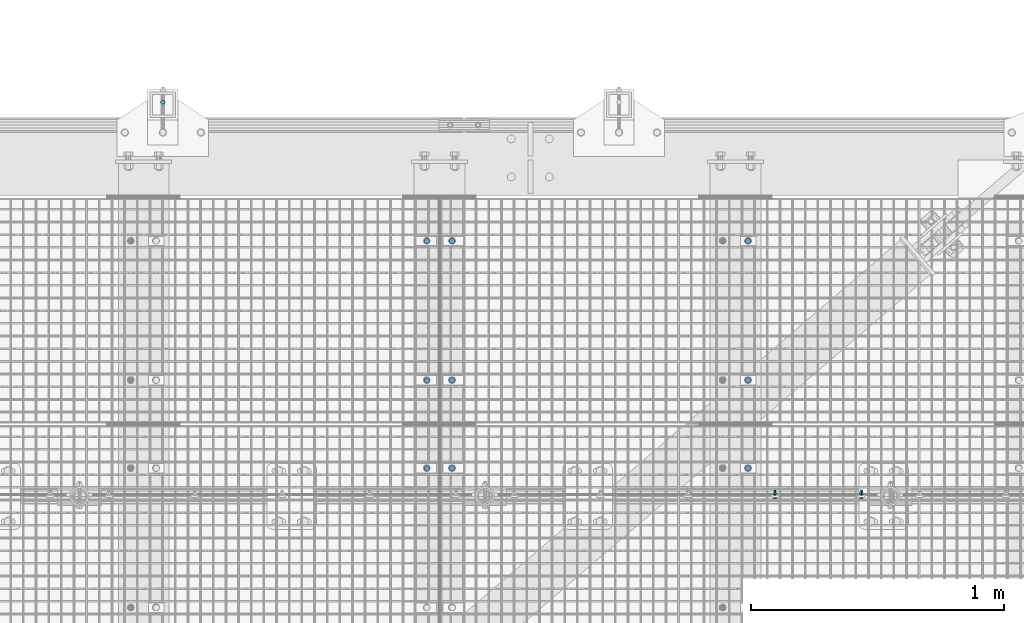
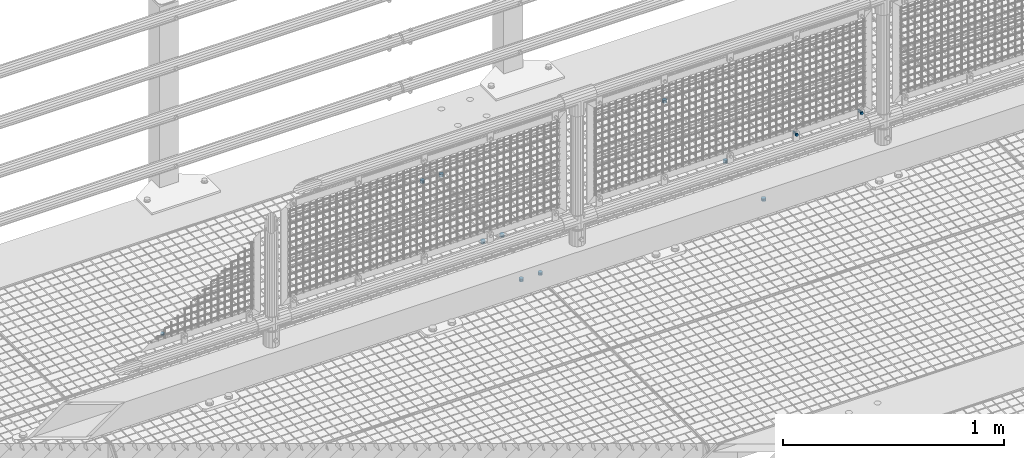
# One storey, part 84 of 1530: 12 mechanical fasteners.
"""IFC2X3 building model written with IfcOpenShell, lengths in millimetres."""

import ifcopenshell
import ifcopenshell.guid

model = None  # the IFC model being written
_history = None  # IfcOwnerHistory: only IFC2X3 demands one
_inside = {}  # id of a spatial element -> (the spatial element, [elements in it])
_under = {}  # id of a project, library or spatial element -> (it, [spatial elements below it])
_declared = {}  # id of a project -> (the project, [libraries it declares])
_typed = {}  # id of a type object -> (the type object, [elements of that type])
_made_of = {}  # id of a material, layer set ... -> (it, [elements and type objects made of it])


def new_model(schema):
    """Start an empty IFC model of exactly this schema.

    Asked for "IFC4X3", IfcOpenShell would pick the latest addendum, in which some entities
    have other attributes; the version numbers below select the first issue.
    IFC2X3 requires an IfcOwnerHistory on every rooted entity: one is made here for all.
    """
    global model, _history
    if schema == "IFC4X3":
        model = ifcopenshell.file(schema_version=(4, 3, 0, 0))
    else:
        model = ifcopenshell.file(schema=schema)
    _inside.clear()
    _under.clear()
    _declared.clear()
    _typed.clear()
    _made_of.clear()
    _history = None
    if model.schema == "IFC2X3":
        org = make("IfcOrganization", Name="unknown")
        user = make(
            "IfcPersonAndOrganization",
            ThePerson=make("IfcPerson", FamilyName="unknown"),
            TheOrganization=org,
        )
        app = make(
            "IfcApplication",
            ApplicationDeveloper=org,
            Version="unknown",
            ApplicationFullName="unknown",
            ApplicationIdentifier="unknown",
        )
        _history = make(
            "IfcOwnerHistory",
            OwningUser=user,
            OwningApplication=app,
            ChangeAction="ADDED",
            CreationDate=0,
        )
    return model


def make(cls, **values):
    """One entity of the class cls with the attributes given. An attribute that is None is left unset."""
    return model.create_entity(
        cls, **{name: value for name, value in values.items() if value is not None}
    )


def rooted(cls, **values):
    """An entity with a GlobalId (a new one), such as an element, a storey or a relation."""
    return make(cls, GlobalId=ifcopenshell.guid.new(), OwnerHistory=_history, **values)


def si_unit(unit_type, name, prefix=None):
    """IfcSIUnit, for example si_unit("LENGTHUNIT", "METRE", prefix="MILLI")."""
    return make("IfcSIUnit", UnitType=unit_type, Prefix=prefix, Name=name)


def assignment(units):
    """IfcUnitAssignment: the units of a project."""
    return None if units is None else make("IfcUnitAssignment", Units=units)


def point(xyz):
    """IfcCartesianPoint."""
    return None if xyz is None else make("IfcCartesianPoint", Coordinates=xyz)


def direction(xyz):
    """IfcDirection."""
    return None if xyz is None else make("IfcDirection", DirectionRatios=xyz)


def frame(location, z_axis=None, x_axis=None):
    """IfcAxis2Placement3D, a coordinate frame: its origin and axes. An axis left out is left unset."""
    return make(
        "IfcAxis2Placement3D",
        Location=point(location),
        Axis=direction(z_axis),
        RefDirection=direction(x_axis),
    )


def origin_with_axes():
    """The frame at (0, 0, 0) with the z axis (0, 0, 1) and the x axis (1, 0, 0) written out."""
    return frame((0.0, 0.0, 0.0), z_axis=(0.0, 0.0, 1.0), x_axis=(1.0, 0.0, 0.0))


def place(relative_to, where):
    """IfcLocalPlacement: puts the frame where relative to a parent placement (None: the world)."""
    return make(
        "IfcLocalPlacement", PlacementRelTo=relative_to, RelativePlacement=where
    )


def context(
    kind, dimensions, precision=None, world=None, true_north=None, identifier=None
):
    """IfcGeometricRepresentationContext, for example the 3D "Model" context."""
    return make(
        "IfcGeometricRepresentationContext",
        ContextIdentifier=identifier,
        ContextType=kind,
        CoordinateSpaceDimension=dimensions,
        Precision=precision,
        WorldCoordinateSystem=world,
        TrueNorth=true_north,
    )


def subcontext(parent, identifier, kind, view, scale=None):
    """IfcGeometricRepresentationSubContext, for example "Body" below "Model"."""
    return make(
        "IfcGeometricRepresentationSubContext",
        ContextIdentifier=identifier,
        ContextType=kind,
        ParentContext=parent,
        TargetScale=scale,
        TargetView=view,
    )


def project(units=None, contexts=None):
    """IfcProject with its units and contexts."""
    return rooted(
        "IfcProject",
        Name="project",
        RepresentationContexts=contexts,
        UnitsInContext=assignment(units),
    )


def spatial(cls, under=None, at=None, **own):
    """A site, building, storey or space (cls), placed at a placement, below another one or the project."""
    s = rooted(cls, ObjectPlacement=at, **own)
    if under is not None:
        _under.setdefault(under.id(), (under, []))[1].append(s)
    return s


def faces_of(points, faces, orient=None, outer=None):
    """IfcFace entities. A face is a list of loops; a loop is a list of indices into points, from 0.

    orient and outer hold one flag for each loop. By default every Orientation is true, the
    first loop of a face is its IfcFaceOuterBound and the others are IfcFaceBound.
    """
    made = []
    for i, loops in enumerate(faces):
        bounds = []
        for j, loop in enumerate(loops):
            is_outer = j == 0 if outer is None else outer[i][j]
            bounds.append(
                make(
                    "IfcFaceOuterBound" if is_outer else "IfcFaceBound",
                    Bound=make("IfcPolyLoop", Polygon=[points[k] for k in loop]),
                    Orientation=True if orient is None else orient[i][j],
                )
            )
        made.append(make("IfcFace", Bounds=bounds))
    return made


def faceted_brep(points, faces, orient=None, outer=None, voids=None):
    """IfcFacetedBrep: a solid bounded by flat faces; with voids (closed shells), ...WithVoids."""
    shared = [point(p) for p in points]
    hull = make("IfcClosedShell", CfsFaces=faces_of(shared, faces, orient, outer))
    if voids is None:
        return make("IfcFacetedBrep", Outer=hull)
    return make(
        "IfcFacetedBrepWithVoids",
        Outer=hull,
        Voids=[
            make(cls, CfsFaces=faces_of(shared, fs, o, b)) for cls, fs, o, b in voids
        ],
    )


def shape(context_of_items, identifier, shape_type, items):
    """IfcShapeRepresentation: the items that make up one representation, for example the "Body"."""
    return make(
        "IfcShapeRepresentation",
        ContextOfItems=context_of_items,
        RepresentationIdentifier=identifier,
        RepresentationType=shape_type,
        Items=items,
    )


def source(mapping_origin, context_of_items, identifier, shape_type, items):
    """IfcRepresentationMap: a shape defined once, which mapped items show again and again."""
    return make(
        "IfcRepresentationMap",
        MappingOrigin=mapping_origin,
        MappedRepresentation=shape(context_of_items, identifier, shape_type, items),
    )


def transform(
    local_origin,
    x_axis=None,
    y_axis=None,
    z_axis=None,
    scale=None,
    scale2=None,
    scale3=None,
    uniform=True,
):
    """IfcCartesianTransformationOperator3D, or its non-uniform kind. x_axis, y_axis, z_axis: its Axis1, 2, 3."""
    if uniform:
        return make(
            "IfcCartesianTransformationOperator3D",
            Axis1=direction(x_axis),
            Axis2=direction(y_axis),
            LocalOrigin=point(local_origin),
            Scale=scale,
            Axis3=direction(z_axis),
        )
    return make(
        "IfcCartesianTransformationOperator3DnonUniform",
        Axis1=direction(x_axis),
        Axis2=direction(y_axis),
        LocalOrigin=point(local_origin),
        Scale=scale,
        Axis3=direction(z_axis),
        Scale2=scale2,
        Scale3=scale3,
    )


def mapped(mapping_source, mapping_target):
    """IfcMappedItem: shows the shape of a source again, moved by a transform."""
    return make(
        "IfcMappedItem", MappingSource=mapping_source, MappingTarget=mapping_target
    )


def material(Name=None, Category=None):
    """IfcMaterial."""
    return make("IfcMaterial", Name=Name, Category=Category)


def made_of(thing, what):
    """Note that an element or type object is made of a material, layer set ...; save() writes the relation."""
    if what is not None:
        _made_of.setdefault(what.id(), (what, []))[1].append(thing)
    return thing


def type_object(cls, material=None, **own):
    """A type object (cls), such as IfcWallType, which elements share."""
    return made_of(rooted(cls, **own), material)


def element(
    cls,
    number,
    at=None,
    inside=None,
    cuts=None,
    type_object=None,
    material=None,
    context=None,
    identifier="Body",
    shape_type=None,
    held_by="IfcProductDefinitionShape",
    body=None,
    shapes=None,
    **own,
):
    """One element of the class cls, such as IfcWall. Its Tag is "e" and its number.

    at: its placement. inside: the storey or other place that contains it. cuts: it is an
    opening in that element (IfcRelVoidsElement). A single representation is given by context,
    identifier, shape_type and body (its items); several are given by shapes. held_by: the class
    of the entity that holds the representations. save() writes the other relations.
    """
    e = rooted(cls, Tag="e%d" % number, ObjectPlacement=at, **own)
    if body is not None:
        shapes = [shape(context, identifier, shape_type, body)]
    if shapes is not None:
        e.Representation = make(held_by, Representations=shapes)
    if inside is not None:
        _inside.setdefault(inside.id(), (inside, []))[1].append(e)
    if cuts is not None:
        rooted(
            "IfcRelVoidsElement", RelatingBuildingElement=cuts, RelatedOpeningElement=e
        )
    if type_object is not None:
        _typed.setdefault(type_object.id(), (type_object, []))[1].append(e)
    return made_of(e, material)


def aggregate(whole, parts):
    """IfcRelAggregates: a whole, such as a stair, and the parts it consists of."""
    return rooted("IfcRelAggregates", RelatingObject=whole, RelatedObjects=parts)


def save(model, path):
    """Write the relations noted so far, then the file.

    IfcRelAggregates (storeys below a building ...), IfcRelContainedInSpatialStructure (elements
    in a storey), IfcRelDefinesByType, IfcRelAssociatesMaterial and IfcRelDeclares: one each for
    every whole, place, type object, material and project.
    """
    for whole, parts in _under.values():
        aggregate(whole, parts)
    for where, things in _inside.values():
        rooted(
            "IfcRelContainedInSpatialStructure",
            RelatedElements=things,
            RelatingStructure=where,
        )
    for kind, things in _typed.values():
        rooted("IfcRelDefinesByType", RelatedObjects=things, RelatingType=kind)
    for what, things in _made_of.values():
        rooted("IfcRelAssociatesMaterial", RelatedObjects=things, RelatingMaterial=what)
    for by, libraries in _declared.values():
        rooted("IfcRelDeclares", RelatingContext=by, RelatedDefinitions=libraries)
    model.write(path)


model = new_model("IFC2X3")

# Units and contexts
model_context = context("Model", 3, precision=1e-05, world=origin_with_axes())
body_context = subcontext(model_context, "Body", "Model", "MODEL_VIEW")
ifc_project = project(units=[si_unit("LENGTHUNIT", "METRE", prefix="MILLI"), si_unit("AREAUNIT", "SQUARE_METRE"), si_unit("VOLUMEUNIT", "CUBIC_METRE"), si_unit("MASSUNIT", "GRAM", prefix="KILO"), si_unit("TIMEUNIT", "SECOND"), si_unit("PLANEANGLEUNIT", "RADIAN"), si_unit("SOLIDANGLEUNIT", "STERADIAN"), si_unit("THERMODYNAMICTEMPERATUREUNIT", "DEGREE_CELSIUS"), si_unit("LUMINOUSINTENSITYUNIT", "LUMEN")], contexts=[model_context])

# Site, building, storey
site_placement = place(None, origin_with_axes())
site = spatial("IfcSite", under=ifc_project, at=site_placement, Name="Brattvåg", CompositionType="ELEMENT")
building_placement = place(site_placement, origin_with_axes())
building = spatial("IfcBuilding", under=site, at=building_placement, Name="Undefined", CompositionType="ELEMENT")
storey_placement = place(building_placement, origin_with_axes())
storey = spatial("IfcBuildingStorey", under=building, at=storey_placement, Name="Undefined", CompositionType="ELEMENT", Elevation=0.0)

# Mechanical fasteners
ifc_material = material(Name="8")
mechanical_fastener_type = type_object("IfcMechanicalFastenerType", Name="Bolt assembly")
shared_shape_1 = source(origin_with_axes(), body_context, "Body", "Brep", [
    faceted_brep([(11.0, -4.99999999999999, 0.0), (9.52627944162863, -4.99999999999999, 5.50000000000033), (5.49999999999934, -4.99999999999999, 9.5262794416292), (-1.13996957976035e-12, -4.99999999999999, 11.0), (-5.50000000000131, -4.99999999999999, 9.52627944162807), (-9.52627944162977, -4.99999999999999, 5.49999999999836), (-11.0, -4.99999999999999, -2.27993915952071e-12), (-9.5262794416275, -4.99999999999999, -5.5000000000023), (-5.49999999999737, -4.99999999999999, -9.52627944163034), (3.40769628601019e-12, -4.99999999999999, -11.0), (5.50000000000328, -4.99999999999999, -9.52627944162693), (9.52627944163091, -4.99999999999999, -5.49999999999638), (9.52627944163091, 10.1, -5.49999999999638), (5.50000000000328, 10.1, -9.52627944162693), (3.40769628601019e-12, 10.1, -11.0), (-5.49999999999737, 10.1, -9.52627944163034), (-9.5262794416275, 10.1, -5.5000000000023), (-11.0, 10.1, -2.27993915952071e-12), (-9.52627944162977, 10.1, 5.49999999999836), (-5.50000000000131, 10.1, 9.52627944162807), (-1.13996957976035e-12, 10.1, 11.0), (5.49999999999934, 10.1, 9.5262794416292), (9.52627944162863, 10.1, 5.50000000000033), (11.0, 10.1, 0.0)], [[[0, 1, 2, 3, 4, 5, 6, 7, 8, 9, 10, 11]], [[12, 13, 14, 15, 16, 17, 18, 19, 20, 21, 22, 23]], [[0, 23, 22, 1]], [[1, 22, 21, 2]], [[2, 21, 20, 3]], [[3, 20, 19, 4]], [[4, 19, 18, 5]], [[5, 18, 17, 6]], [[6, 17, 16, 7]], [[7, 16, 15, 8]], [[8, 15, 14, 9]], [[9, 14, 13, 10]], [[10, 13, 12, 11]], [[11, 12, 23, 0]]]),
])
for number, where, z_axis, x_axis, name in (
    (1, (5292.00477935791, 8121.98931152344, -35.0), (0.0, 1.0, 0.0), (1.0, 0.0, 0.0), "Bolt assembly"),
    (2, (5292.00477935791, 8671.99411010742, -35.0), (0.0, 1.0, 0.0), (1.0, 0.0, 0.0), "Bolt assembly"),
    (3, (6460.01456069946, 8671.99565124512, -35.0), (0.0, -1.0, 0.0), (-1.0, 1.99999855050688e-09, 0.0), "Bolt assembly"),
    (4, (6460.01192543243, 8121.99, -35.0), (0.0, -1.0, 0.0), (-1.0, 1.99999855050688e-09, 0.0), "Bolt assembly"),
    (5, (5292.00477935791, 7774.99411010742, -35.0), (0.0, 1.0, 0.0), (1.0, 0.0, 0.0), "Bolt assembly"),
    (6, (6460.01456069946, 7774.99565124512, -35.0), (0.0, -1.0, 0.0), (-1.0, 1.99999855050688e-09, 0.0), "Bolt assembly"),
    (7, (5192.01487731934, 8671.99411010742, -35.0), (0.0, -1.0, 0.0), (-1.0, 1.99999855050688e-09, 0.0), "Bolt assembly"),
    (8, (5192.01487731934, 8121.9904864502, -35.0), (0.0, -1.0, 0.0), (-1.0, 1.99999855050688e-09, 0.0), "Bolt assembly"),
    (9, (5192.01487731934, 7774.99411010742, -35.0), (0.0, -1.0, 0.0), (-1.0, 1.99999855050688e-09, 0.0), "Bolt assembly"),
):
    element("IfcMechanicalFastener", number, at=place(storey_placement, frame(where, z_axis=z_axis, x_axis=x_axis)), inside=storey, type_object=mechanical_fastener_type, material=ifc_material, Name=name, NominalDiameter=20.0, NominalLength=15.0, context=body_context, shape_type="MappedRepresentation", body=[
        mapped(shared_shape_1, transform((0.0, 0.0, 0.0))),
    ])
shared_shape_2 = source(origin_with_axes(), body_context, "Body", "Brep", [
    faceted_brep([(9.0, -0.000108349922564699, 0.0), (7.79422863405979, -0.000108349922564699, 4.50000000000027), (4.49999999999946, -0.000108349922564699, 7.79422863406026), (-9.3270238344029e-13, -0.000108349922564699, 9.0), (-4.50000000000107, -0.000108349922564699, 7.79422863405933), (-7.79422863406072, -0.000108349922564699, 4.49999999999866), (-9.0, -0.000108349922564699, -1.86540476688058e-12), (-7.79422863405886, -0.000108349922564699, -4.50000000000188), (-4.49999999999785, -0.000108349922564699, -7.79422863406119), (2.78811514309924e-12, -0.000108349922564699, -9.0), (4.50000000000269, -0.000108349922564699, -7.7942286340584), (7.79422863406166, -0.000108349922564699, -4.49999999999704), (7.79422863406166, 10.0998916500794, -4.49999999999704), (4.50000000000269, 10.0998916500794, -7.7942286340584), (2.78811514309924e-12, 10.0998916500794, -9.0), (-4.49999999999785, 10.0998916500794, -7.79422863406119), (-7.79422863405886, 10.0998916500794, -4.50000000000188), (-9.0, 10.0998916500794, -1.86540476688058e-12), (-7.79422863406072, 10.0998916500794, 4.49999999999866), (-4.50000000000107, 10.0998916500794, 7.79422863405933), (-9.3270238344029e-13, 10.0998916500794, 9.0), (4.49999999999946, 10.0998916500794, 7.79422863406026), (7.79422863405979, 10.0998916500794, 4.50000000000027), (9.0, 10.0998916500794, 0.0)], [[[0, 1, 2, 3, 4, 5, 6, 7, 8, 9, 10, 11]], [[12, 13, 14, 15, 16, 17, 18, 19, 20, 21, 22, 23]], [[0, 23, 22, 1]], [[1, 22, 21, 2]], [[2, 21, 20, 3]], [[3, 20, 19, 4]], [[4, 19, 18, 5]], [[5, 18, 17, 6]], [[6, 17, 16, 7]], [[7, 16, 15, 8]], [[8, 15, 14, 9]], [[9, 14, 13, 10]], [[10, 13, 12, 11]], [[11, 12, 23, 0]]]),
])
mechanical_fastener_1_placement = place(storey_placement, frame((4150.00016021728, 9219.99992874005, -855.000061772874), z_axis=(-1.0, 1.99999855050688e-09, 0.0), x_axis=(0.0, -0.99999999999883, 1.53000000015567e-06)))
element("IfcMechanicalFastener", 10, at=mechanical_fastener_1_placement, inside=storey, type_object=mechanical_fastener_type, material=ifc_material, Name="Bolt assembly", NominalDiameter=16.0, NominalLength=10.0001087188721, context=body_context, shape_type="MappedRepresentation", body=[
    mapped(shared_shape_2, transform((0.0, 0.0, 0.0))),
])
shared_shape_3 = source(origin_with_axes(), body_context, "Body", "Brep", [
    faceted_brep([(7.50555349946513, -6.899000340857, 0.0), (3.75277674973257, -6.899000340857, 6.5), (-3.75277674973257, -6.899000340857, 6.5), (-7.50555349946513, -6.899000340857, 9.19165206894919e-16), (-3.75277674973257, -6.899000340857, -6.5), (3.75277674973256, -6.899000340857, -6.5), (3.75277674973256, -1.59900015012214, -6.5), (-3.75277674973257, -1.59900015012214, -6.5), (-7.50555349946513, -1.59900015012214, 9.19165206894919e-16), (-3.75277674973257, -1.59900015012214, 6.5), (3.75277674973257, -1.59900015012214, 6.5), (7.50555349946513, -1.59900015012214, 0.0), (4.0, -1.59900015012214, 0.0), (3.46410161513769, -1.59900015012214, 2.00000000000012), (1.99999999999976, -1.59900015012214, 3.46410161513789), (-4.14534392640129e-13, -1.59900015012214, 4.0), (-2.00000000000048, -1.59900015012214, 3.46410161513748), (-3.4641016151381, -1.59900015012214, 1.9999999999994), (-4.0, -1.59900015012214, -8.29068785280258e-13), (-3.46410161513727, -1.59900015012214, -2.00000000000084), (-1.99999999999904, -1.59900015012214, -3.46410161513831), (1.23916228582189e-12, -1.59900015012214, -4.0), (2.00000000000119, -1.59900015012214, -3.46410161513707), (3.46410161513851, -1.59900015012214, -1.99999999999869), (3.46410161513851, 28.4009998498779, -1.99999999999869), (2.00000000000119, 28.4009998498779, -3.46410161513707), (1.23916228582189e-12, 28.4009998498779, -4.0), (-1.99999999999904, 28.4009998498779, -3.46410161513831), (-3.46410161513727, 28.4009998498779, -2.00000000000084), (-4.0, 28.4009998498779, -8.29068785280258e-13), (-3.4641016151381, 28.4009998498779, 1.9999999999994), (-2.00000000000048, 28.4009998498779, 3.46410161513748), (-4.14534392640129e-13, 28.4009998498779, 4.0), (1.99999999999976, 28.4009998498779, 3.46410161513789), (3.46410161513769, 28.4009998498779, 2.00000000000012), (4.0, 28.4009998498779, 0.0), (8.5, -1.59900015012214, 0.0), (7.36121593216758, -1.59900015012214, 4.25000000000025), (4.24999999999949, -1.59900015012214, 7.36121593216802), (-8.80885584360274e-13, -1.59900015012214, 8.5), (-4.25000000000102, -1.59900015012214, 7.36121593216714), (-7.36121593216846, -1.59900015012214, 4.24999999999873), (-8.5, -1.59900015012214, -1.76177116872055e-12), (-7.3612159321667, -1.59900015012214, -4.25000000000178), (-4.24999999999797, -1.59900015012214, -7.3612159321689), (2.63321985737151e-12, -1.59900015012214, -8.5), (4.25000000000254, -1.59900015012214, -7.36121593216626), (7.36121593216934, -1.59900015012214, -4.24999999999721), (7.36121593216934, 0.000999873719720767, -4.24999999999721), (4.25000000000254, 0.000999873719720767, -7.36121593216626), (2.63321985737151e-12, 0.000999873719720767, -8.5), (-4.24999999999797, 0.000999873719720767, -7.3612159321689), (-7.3612159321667, 0.000999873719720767, -4.25000000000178), (-8.5, 0.000999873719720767, -1.76177116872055e-12), (-7.36121593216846, 0.000999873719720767, 4.24999999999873), (-4.25000000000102, 0.000999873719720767, 7.36121593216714), (-8.80885584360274e-13, 0.000999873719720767, 8.5), (4.24999999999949, 0.000999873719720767, 7.36121593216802), (7.36121593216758, 0.000999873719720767, 4.25000000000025), (8.5, 0.000999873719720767, 0.0), (8.5, 11.5030995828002, 0.0), (7.36121593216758, 11.5030995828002, 4.25000000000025), (4.24999999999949, 11.5030995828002, 7.36121593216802), (-8.80885584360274e-13, 11.5030995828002, 8.5), (-4.25000000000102, 11.5030995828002, 7.36121593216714), (-7.36121593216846, 11.5030995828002, 4.24999999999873), (-8.5, 11.5030995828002, -1.76177116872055e-12), (-7.3612159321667, 11.5030995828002, -4.25000000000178), (-4.24999999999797, 11.5030995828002, -7.3612159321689), (2.63321985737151e-12, 11.5030995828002, -8.5), (4.25000000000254, 11.5030995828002, -7.36121593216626), (7.36121593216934, 11.5030995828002, -4.24999999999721), (7.36121593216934, 13.1030996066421, -4.24999999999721), (4.25000000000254, 13.1030996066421, -7.36121593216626), (2.63321985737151e-12, 13.1030996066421, -8.5), (-4.24999999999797, 13.1030996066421, -7.3612159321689), (-7.3612159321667, 13.1030996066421, -4.25000000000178), (-8.5, 13.1030996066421, -1.76177116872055e-12), (-7.36121593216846, 13.1030996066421, 4.24999999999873), (-4.25000000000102, 13.1030996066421, 7.36121593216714), (-8.80885584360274e-13, 13.1030996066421, 8.5), (4.24999999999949, 13.1030996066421, 7.36121593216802), (7.36121593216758, 13.1030996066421, 4.25000000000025), (8.5, 13.1030996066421, 0.0), (7.50555349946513, 13.1030996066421, 0.0), (3.75277674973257, 13.1030996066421, 6.5), (-3.75277674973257, 13.1030996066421, 6.5), (-7.50555349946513, 13.1030996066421, 9.19165206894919e-16), (-3.75277674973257, 13.1030996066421, -6.5), (3.75277674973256, 13.1030996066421, -6.5), (3.75277674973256, 19.9030997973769, -6.5), (-3.75277674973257, 19.9030997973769, -6.5), (-7.50555349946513, 19.9030997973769, 9.19165206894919e-16), (-3.75277674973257, 19.9030997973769, 6.5), (3.75277674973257, 19.9030997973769, 6.5), (7.50555349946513, 19.9030997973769, 0.0)], [[[0, 1, 2, 3, 4, 5]], [[6, 7, 8, 9, 10, 11]], [[0, 11, 10, 1]], [[1, 10, 9, 2]], [[2, 9, 8, 3]], [[3, 8, 7, 4]], [[4, 7, 6, 5]], [[5, 6, 11, 0]], [[12, 13, 14, 15, 16, 17, 18, 19, 20, 21, 22, 23]], [[24, 25, 26, 27, 28, 29, 30, 31, 32, 33, 34, 35]], [[12, 35, 34, 13]], [[13, 34, 33, 14]], [[14, 33, 32, 15]], [[15, 32, 31, 16]], [[16, 31, 30, 17]], [[17, 30, 29, 18]], [[18, 29, 28, 19]], [[19, 28, 27, 20]], [[20, 27, 26, 21]], [[21, 26, 25, 22]], [[22, 25, 24, 23]], [[23, 24, 35, 12]], [[36, 37, 38, 39, 40, 41, 42, 43, 44, 45, 46, 47]], [[48, 49, 50, 51, 52, 53, 54, 55, 56, 57, 58, 59]], [[36, 59, 58, 37]], [[37, 58, 57, 38]], [[38, 57, 56, 39]], [[39, 56, 55, 40]], [[40, 55, 54, 41]], [[41, 54, 53, 42]], [[42, 53, 52, 43]], [[43, 52, 51, 44]], [[44, 51, 50, 45]], [[45, 50, 49, 46]], [[46, 49, 48, 47]], [[47, 48, 59, 36]], [[60, 61, 62, 63, 64, 65, 66, 67, 68, 69, 70, 71]], [[72, 73, 74, 75, 76, 77, 78, 79, 80, 81, 82, 83]], [[60, 83, 82, 61]], [[61, 82, 81, 62]], [[62, 81, 80, 63]], [[63, 80, 79, 64]], [[64, 79, 78, 65]], [[65, 78, 77, 66]], [[66, 77, 76, 67]], [[67, 76, 75, 68]], [[68, 75, 74, 69]], [[69, 74, 73, 70]], [[70, 73, 72, 71]], [[71, 72, 83, 60]], [[84, 85, 86, 87, 88, 89]], [[90, 91, 92, 93, 94, 95]], [[84, 95, 94, 85]], [[85, 94, 93, 86]], [[86, 93, 92, 87]], [[87, 92, 91, 88]], [[88, 91, 90, 89]], [[89, 90, 95, 84]]]),
    faceted_brep([(5.0, 0.100999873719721, 0.0), (4.33012701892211, 0.100999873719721, 2.50000000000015), (2.4999999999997, 0.100999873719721, 4.33012701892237), (-5.18167990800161e-13, 0.100999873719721, 5.0), (-2.5000000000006, 0.100999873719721, 4.33012701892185), (-4.33012701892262, 0.100999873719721, 2.49999999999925), (-5.0, 0.100999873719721, -1.03633598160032e-12), (-4.33012701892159, 0.100999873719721, -2.50000000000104), (-2.49999999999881, 0.100999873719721, -4.33012701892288), (1.54895285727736e-12, 0.100999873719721, -5.0), (2.50000000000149, 0.100999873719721, -4.33012701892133), (4.33012701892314, 0.100999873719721, -2.49999999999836), (4.33012701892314, 8.10099988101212, -2.49999999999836), (2.50000000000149, 8.10099988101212, -4.33012701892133), (1.54895285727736e-12, 8.10099988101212, -5.0), (-2.49999999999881, 8.10099988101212, -4.33012701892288), (-4.33012701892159, 8.10099988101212, -2.50000000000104), (-5.0, 8.10099988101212, -1.03633598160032e-12), (-4.33012701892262, 8.10099988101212, 2.49999999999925), (-2.5000000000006, 8.10099988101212, 4.33012701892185), (-5.18167990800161e-13, 8.10099988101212, 5.0), (2.4999999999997, 8.10099988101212, 4.33012701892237), (4.33012701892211, 8.10099988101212, 2.50000000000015), (5.0, 8.10099988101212, 0.0), (5.0, 8.40309958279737, 0.0), (4.33012701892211, 8.40309958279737, 2.50000000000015), (2.4999999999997, 8.40309958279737, 4.33012701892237), (-5.18167990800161e-13, 8.40309958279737, 5.0), (-2.5000000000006, 8.40309958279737, 4.33012701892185), (-4.33012701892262, 8.40309958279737, 2.49999999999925), (-5.0, 8.40309958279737, -1.03633598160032e-12), (-4.33012701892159, 8.40309958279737, -2.50000000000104), (-2.49999999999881, 8.40309958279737, -4.33012701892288), (1.54895285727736e-12, 8.40309958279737, -5.0), (2.50000000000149, 8.40309958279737, -4.33012701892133), (4.33012701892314, 8.40309958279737, -2.49999999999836), (4.33012701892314, 11.5030995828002, -2.49999999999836), (2.50000000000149, 11.5030995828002, -4.33012701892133), (1.54895285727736e-12, 11.5030995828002, -5.0), (-2.49999999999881, 11.5030995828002, -4.33012701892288), (-4.33012701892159, 11.5030995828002, -2.50000000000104), (-5.0, 11.5030995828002, -1.03633598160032e-12), (-4.33012701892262, 11.5030995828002, 2.49999999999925), (-2.5000000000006, 11.5030995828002, 4.33012701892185), (-5.18167990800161e-13, 11.5030995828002, 5.0), (2.4999999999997, 11.5030995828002, 4.33012701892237), (4.33012701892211, 11.5030995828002, 2.50000000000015), (5.0, 11.5030995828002, 0.0)], [[[0, 1, 2, 3, 4, 5, 6, 7, 8, 9, 10, 11]], [[12, 13, 14, 15, 16, 17, 18, 19, 20, 21, 22, 23]], [[0, 23, 22, 1]], [[1, 22, 21, 2]], [[2, 21, 20, 3]], [[3, 20, 19, 4]], [[4, 19, 18, 5]], [[5, 18, 17, 6]], [[6, 17, 16, 7]], [[7, 16, 15, 8]], [[8, 15, 14, 9]], [[9, 14, 13, 10]], [[10, 13, 12, 11]], [[11, 12, 23, 0]], [[24, 25, 26, 27, 28, 29, 30, 31, 32, 33, 34, 35]], [[36, 37, 38, 39, 40, 41, 42, 43, 44, 45, 46, 47]], [[24, 47, 46, 25]], [[25, 46, 45, 26]], [[26, 45, 44, 27]], [[27, 44, 43, 28]], [[28, 43, 42, 29]], [[29, 42, 41, 30]], [[30, 41, 40, 31]], [[31, 40, 39, 32]], [[32, 39, 38, 33]], [[33, 38, 37, 34]], [[34, 37, 36, 35]], [[35, 36, 47, 24]]]),
])
mechanical_fastener_2_placement = place(storey_placement, frame((6565.8512954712, 7660.49843978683, 352.299672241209), z_axis=(-1.0, 1.99999855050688e-09, 0.0), x_axis=(0.0, 0.0, 1.0)))
element("IfcMechanicalFastener", 11, at=mechanical_fastener_2_placement, inside=storey, type_object=mechanical_fastener_type, material=ifc_material, Name="Bolt assembly", NominalDiameter=8.0, NominalLength=30.0, context=body_context, shape_type="MappedRepresentation", body=[
    mapped(shared_shape_3, transform((0.0, 0.0, 0.0))),
])
shared_shape_4 = source(origin_with_axes(), body_context, "Body", "Brep", [
    faceted_brep([(7.50555349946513, -6.899000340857, 0.0), (3.75277674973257, -6.899000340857, 6.5), (-3.75277674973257, -6.899000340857, 6.5), (-7.50555349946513, -6.899000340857, 9.19165206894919e-16), (-3.75277674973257, -6.899000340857, -6.5), (3.75277674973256, -6.899000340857, -6.5), (3.75277674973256, -1.59900015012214, -6.5), (-3.75277674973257, -1.59900015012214, -6.5), (-7.50555349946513, -1.59900015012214, 9.19165206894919e-16), (-3.75277674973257, -1.59900015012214, 6.5), (3.75277674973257, -1.59900015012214, 6.5), (7.50555349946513, -1.59900015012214, 0.0), (4.0, -1.59900015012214, 0.0), (3.46410161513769, -1.59900015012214, 2.00000000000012), (1.99999999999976, -1.59900015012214, 3.46410161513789), (-4.14534392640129e-13, -1.59900015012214, 4.0), (-2.00000000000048, -1.59900015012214, 3.46410161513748), (-3.4641016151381, -1.59900015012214, 1.9999999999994), (-4.0, -1.59900015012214, -8.29068785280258e-13), (-3.46410161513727, -1.59900015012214, -2.00000000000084), (-1.99999999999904, -1.59900015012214, -3.46410161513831), (1.23916228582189e-12, -1.59900015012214, -4.0), (2.00000000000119, -1.59900015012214, -3.46410161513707), (3.46410161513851, -1.59900015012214, -1.99999999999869), (3.46410161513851, 28.4009998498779, -1.99999999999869), (2.00000000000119, 28.4009998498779, -3.46410161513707), (1.23916228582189e-12, 28.4009998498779, -4.0), (-1.99999999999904, 28.4009998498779, -3.46410161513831), (-3.46410161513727, 28.4009998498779, -2.00000000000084), (-4.0, 28.4009998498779, -8.29068785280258e-13), (-3.4641016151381, 28.4009998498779, 1.9999999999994), (-2.00000000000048, 28.4009998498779, 3.46410161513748), (-4.14534392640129e-13, 28.4009998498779, 4.0), (1.99999999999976, 28.4009998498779, 3.46410161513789), (3.46410161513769, 28.4009998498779, 2.00000000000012), (4.0, 28.4009998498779, 0.0), (8.5, -1.59900015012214, 0.0), (7.36121593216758, -1.59900015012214, 4.25000000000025), (4.24999999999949, -1.59900015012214, 7.36121593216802), (-8.80885584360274e-13, -1.59900015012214, 8.5), (-4.25000000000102, -1.59900015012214, 7.36121593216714), (-7.36121593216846, -1.59900015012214, 4.24999999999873), (-8.5, -1.59900015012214, -1.76177116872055e-12), (-7.3612159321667, -1.59900015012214, -4.25000000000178), (-4.24999999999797, -1.59900015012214, -7.3612159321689), (2.63321985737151e-12, -1.59900015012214, -8.5), (4.25000000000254, -1.59900015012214, -7.36121593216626), (7.36121593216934, -1.59900015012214, -4.24999999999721), (7.36121593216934, 0.000999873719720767, -4.24999999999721), (4.25000000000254, 0.000999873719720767, -7.36121593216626), (2.63321985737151e-12, 0.000999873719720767, -8.5), (-4.24999999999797, 0.000999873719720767, -7.3612159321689), (-7.3612159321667, 0.000999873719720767, -4.25000000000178), (-8.5, 0.000999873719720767, -1.76177116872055e-12), (-7.36121593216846, 0.000999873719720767, 4.24999999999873), (-4.25000000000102, 0.000999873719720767, 7.36121593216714), (-8.80885584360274e-13, 0.000999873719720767, 8.5), (4.24999999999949, 0.000999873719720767, 7.36121593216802), (7.36121593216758, 0.000999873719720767, 4.25000000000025), (8.5, 0.000999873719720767, 0.0), (8.5, 11.5022147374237, 0.0), (7.36121593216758, 11.5022147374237, 4.25000000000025), (4.24999999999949, 11.5022147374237, 7.36121593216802), (-8.80885584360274e-13, 11.5022147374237, 8.5), (-4.25000000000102, 11.5022147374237, 7.36121593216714), (-7.36121593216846, 11.5022147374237, 4.24999999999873), (-8.5, 11.5022147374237, -1.76177116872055e-12), (-7.3612159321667, 11.5022147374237, -4.25000000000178), (-4.24999999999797, 11.5022147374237, -7.3612159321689), (2.63321985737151e-12, 11.5022147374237, -8.5), (4.25000000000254, 11.5022147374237, -7.36121593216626), (7.36121593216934, 11.5022147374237, -4.24999999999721), (7.36121593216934, 13.1022147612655, -4.24999999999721), (4.25000000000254, 13.1022147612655, -7.36121593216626), (2.63321985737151e-12, 13.1022147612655, -8.5), (-4.24999999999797, 13.1022147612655, -7.3612159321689), (-7.3612159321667, 13.1022147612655, -4.25000000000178), (-8.5, 13.1022147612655, -1.76177116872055e-12), (-7.36121593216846, 13.1022147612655, 4.24999999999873), (-4.25000000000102, 13.1022147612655, 7.36121593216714), (-8.80885584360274e-13, 13.1022147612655, 8.5), (4.24999999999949, 13.1022147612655, 7.36121593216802), (7.36121593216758, 13.1022147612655, 4.25000000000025), (8.5, 13.1022147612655, 0.0), (7.50555349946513, 13.1022147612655, 0.0), (3.75277674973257, 13.1022147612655, 6.5), (-3.75277674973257, 13.1022147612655, 6.5), (-7.50555349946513, 13.1022147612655, 9.19165206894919e-16), (-3.75277674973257, 13.1022147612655, -6.5), (3.75277674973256, 13.1022147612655, -6.5), (3.75277674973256, 19.9022149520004, -6.5), (-3.75277674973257, 19.9022149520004, -6.5), (-7.50555349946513, 19.9022149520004, 9.19165206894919e-16), (-3.75277674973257, 19.9022149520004, 6.5), (3.75277674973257, 19.9022149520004, 6.5), (7.50555349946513, 19.9022149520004, 0.0)], [[[0, 1, 2, 3, 4, 5]], [[6, 7, 8, 9, 10, 11]], [[0, 11, 10, 1]], [[1, 10, 9, 2]], [[2, 9, 8, 3]], [[3, 8, 7, 4]], [[4, 7, 6, 5]], [[5, 6, 11, 0]], [[12, 13, 14, 15, 16, 17, 18, 19, 20, 21, 22, 23]], [[24, 25, 26, 27, 28, 29, 30, 31, 32, 33, 34, 35]], [[12, 35, 34, 13]], [[13, 34, 33, 14]], [[14, 33, 32, 15]], [[15, 32, 31, 16]], [[16, 31, 30, 17]], [[17, 30, 29, 18]], [[18, 29, 28, 19]], [[19, 28, 27, 20]], [[20, 27, 26, 21]], [[21, 26, 25, 22]], [[22, 25, 24, 23]], [[23, 24, 35, 12]], [[36, 37, 38, 39, 40, 41, 42, 43, 44, 45, 46, 47]], [[48, 49, 50, 51, 52, 53, 54, 55, 56, 57, 58, 59]], [[36, 59, 58, 37]], [[37, 58, 57, 38]], [[38, 57, 56, 39]], [[39, 56, 55, 40]], [[40, 55, 54, 41]], [[41, 54, 53, 42]], [[42, 53, 52, 43]], [[43, 52, 51, 44]], [[44, 51, 50, 45]], [[45, 50, 49, 46]], [[46, 49, 48, 47]], [[47, 48, 59, 36]], [[60, 61, 62, 63, 64, 65, 66, 67, 68, 69, 70, 71]], [[72, 73, 74, 75, 76, 77, 78, 79, 80, 81, 82, 83]], [[60, 83, 82, 61]], [[61, 82, 81, 62]], [[62, 81, 80, 63]], [[63, 80, 79, 64]], [[64, 79, 78, 65]], [[65, 78, 77, 66]], [[66, 77, 76, 67]], [[67, 76, 75, 68]], [[68, 75, 74, 69]], [[69, 74, 73, 70]], [[70, 73, 72, 71]], [[71, 72, 83, 60]], [[84, 85, 86, 87, 88, 89]], [[90, 91, 92, 93, 94, 95]], [[84, 95, 94, 85]], [[85, 94, 93, 86]], [[86, 93, 92, 87]], [[87, 92, 91, 88]], [[88, 91, 90, 89]], [[89, 90, 95, 84]]]),
    faceted_brep([(5.0, 0.100999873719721, 0.0), (4.33012701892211, 0.100999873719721, 2.50000000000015), (2.4999999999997, 0.100999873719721, 4.33012701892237), (-5.18167990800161e-13, 0.100999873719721, 5.0), (-2.5000000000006, 0.100999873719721, 4.33012701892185), (-4.33012701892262, 0.100999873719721, 2.49999999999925), (-5.0, 0.100999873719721, -1.03633598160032e-12), (-4.33012701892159, 0.100999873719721, -2.50000000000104), (-2.49999999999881, 0.100999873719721, -4.33012701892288), (1.54895285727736e-12, 0.100999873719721, -5.0), (2.50000000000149, 0.100999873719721, -4.33012701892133), (4.33012701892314, 0.100999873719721, -2.49999999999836), (4.33012701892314, 8.10099988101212, -2.49999999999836), (2.50000000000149, 8.10099988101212, -4.33012701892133), (1.54895285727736e-12, 8.10099988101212, -5.0), (-2.49999999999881, 8.10099988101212, -4.33012701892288), (-4.33012701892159, 8.10099988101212, -2.50000000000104), (-5.0, 8.10099988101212, -1.03633598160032e-12), (-4.33012701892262, 8.10099988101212, 2.49999999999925), (-2.5000000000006, 8.10099988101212, 4.33012701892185), (-5.18167990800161e-13, 8.10099988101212, 5.0), (2.4999999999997, 8.10099988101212, 4.33012701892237), (4.33012701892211, 8.10099988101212, 2.50000000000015), (5.0, 8.10099988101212, 0.0), (5.0, 8.40221473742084, 0.0), (4.33012701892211, 8.40221473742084, 2.50000000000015), (2.4999999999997, 8.40221473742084, 4.33012701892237), (-5.18167990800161e-13, 8.40221473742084, 5.0), (-2.5000000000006, 8.40221473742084, 4.33012701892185), (-4.33012701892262, 8.40221473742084, 2.49999999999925), (-5.0, 8.40221473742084, -1.03633598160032e-12), (-4.33012701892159, 8.40221473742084, -2.50000000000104), (-2.49999999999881, 8.40221473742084, -4.33012701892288), (1.54895285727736e-12, 8.40221473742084, -5.0), (2.50000000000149, 8.40221473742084, -4.33012701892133), (4.33012701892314, 8.40221473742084, -2.49999999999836), (4.33012701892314, 11.5022147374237, -2.49999999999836), (2.50000000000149, 11.5022147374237, -4.33012701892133), (1.54895285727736e-12, 11.5022147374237, -5.0), (-2.49999999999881, 11.5022147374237, -4.33012701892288), (-4.33012701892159, 11.5022147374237, -2.50000000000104), (-5.0, 11.5022147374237, -1.03633598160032e-12), (-4.33012701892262, 11.5022147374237, 2.49999999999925), (-2.5000000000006, 11.5022147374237, 4.33012701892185), (-5.18167990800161e-13, 11.5022147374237, 5.0), (2.4999999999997, 11.5022147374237, 4.33012701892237), (4.33012701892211, 11.5022147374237, 2.50000000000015), (5.0, 11.5022147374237, 0.0)], [[[0, 1, 2, 3, 4, 5, 6, 7, 8, 9, 10, 11]], [[12, 13, 14, 15, 16, 17, 18, 19, 20, 21, 22, 23]], [[0, 23, 22, 1]], [[1, 22, 21, 2]], [[2, 21, 20, 3]], [[3, 20, 19, 4]], [[4, 19, 18, 5]], [[5, 18, 17, 6]], [[6, 17, 16, 7]], [[7, 16, 15, 8]], [[8, 15, 14, 9]], [[9, 14, 13, 10]], [[10, 13, 12, 11]], [[11, 12, 23, 0]], [[24, 25, 26, 27, 28, 29, 30, 31, 32, 33, 34, 35]], [[36, 37, 38, 39, 40, 41, 42, 43, 44, 45, 46, 47]], [[24, 47, 46, 25]], [[25, 46, 45, 26]], [[26, 45, 44, 27]], [[27, 44, 43, 28]], [[28, 43, 42, 29]], [[29, 42, 41, 30]], [[30, 41, 40, 31]], [[31, 40, 39, 32]], [[32, 39, 38, 33]], [[33, 38, 37, 34]], [[34, 37, 36, 35]], [[35, 36, 47, 24]]]),
])
mechanical_fastener_3_placement = place(storey_placement, frame((6905.99974822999, 7660.49888992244, 352.300205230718), z_axis=(-1.0, 1.99999855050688e-09, 0.0), x_axis=(0.0, 0.0, 1.0)))
element("IfcMechanicalFastener", 12, at=mechanical_fastener_3_placement, inside=storey, type_object=mechanical_fastener_type, material=ifc_material, Name="Bolt assembly", NominalDiameter=8.0, NominalLength=30.0, context=body_context, shape_type="MappedRepresentation", body=[
    mapped(shared_shape_4, transform((0.0, 0.0, 0.0))),
])

save(model, "model.ifc")
